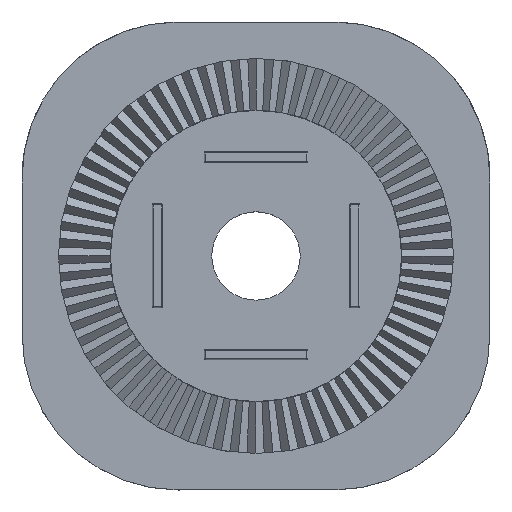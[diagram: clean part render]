
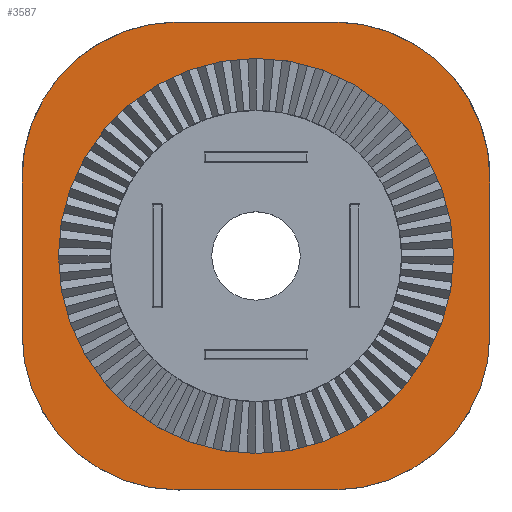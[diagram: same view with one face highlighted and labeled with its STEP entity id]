
A CAD part, top view. The second image highlights one B-rep face of the part: STEP entity #3587.
In plain terms, the highlighted planar face has unit normal (0, 0, 1).
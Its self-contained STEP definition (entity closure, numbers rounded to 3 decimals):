
#166 = AXIS2_PLACEMENT_3D ( 'NONE', #3101, #3102, #3103 ) ;
#169 = CIRCLE ( 'NONE', #166, 15. ) ;
#173 = AXIS2_PLACEMENT_3D ( 'NONE', #3092, #3093, #3094 ) ;
#180 = CIRCLE ( 'NONE', #173, 15. ) ;
#189 = VECTOR ( 'NONE', #3072, 1000. ) ;
#198 = AXIS2_PLACEMENT_3D ( 'NONE', #3021, #3022, #3023 ) ;
#202 = CIRCLE ( 'NONE', #198, 15. ) ;
#368 = VECTOR ( 'NONE', #5091, 1000. ) ;
#377 = AXIS2_PLACEMENT_3D ( 'NONE', #4906, #4907, #4908 ) ;
#379 = CIRCLE ( 'NONE', #377, 19. ) ;
#422 = AXIS2_PLACEMENT_3D ( 'NONE', #1386, #1387, #1388 ) ;
#428 = VECTOR ( 'NONE', #4779, 1000. ) ;
#468 = CIRCLE ( 'NONE', #422, 15. ) ;
#482 = VECTOR ( 'NONE', #1347, 1000. ) ;
#1123 = CARTESIAN_POINT ( 'NONE',  ( -900.756, 1965.144, 20. ) ) ;
#1127 = FACE_BOUND ( 'NONE', #4267, .T. ) ;
#1128 = FACE_OUTER_BOUND ( 'NONE', #4585, .T. ) ;
#1129 = PLANE ( 'NONE',  #2690 ) ;
#1131 = DIRECTION ( 'NONE',  ( 0., 0., 1. ) ) ;
#1132 = DIRECTION ( 'NONE',  ( 1., 0., 0. ) ) ;
#1345 = LINE ( 'NONE', #1346, #482 ) ;
#1346 = CARTESIAN_POINT ( 'NONE',  ( -915.756, 1950.144, 20. ) ) ;
#1347 = DIRECTION ( 'NONE',  ( 1., 0., 0. ) ) ;
#1386 = CARTESIAN_POINT ( 'NONE',  ( -915.756, 1965.144, 20. ) ) ;
#1387 = DIRECTION ( 'NONE',  ( 0., 0., 1. ) ) ;
#1388 = DIRECTION ( 'NONE',  ( 1., 0., 0. ) ) ;
#1460 = CARTESIAN_POINT ( 'NONE',  ( -930.756, 1965.144, 20. ) ) ;
#1461 = CARTESIAN_POINT ( 'NONE',  ( -930.756, 1980.144, 20. ) ) ;
#1464 = CARTESIAN_POINT ( 'NONE',  ( -915.756, 1995.144, 20. ) ) ;
#1467 = CARTESIAN_POINT ( 'NONE',  ( -885.756, 1980.144, 20. ) ) ;
#1511 = CARTESIAN_POINT ( 'NONE',  ( -889.256, 1972.644, 20. ) ) ;
#1605 = CARTESIAN_POINT ( 'NONE',  ( -885.756, 1965.144, 20. ) ) ;
#1623 = CARTESIAN_POINT ( 'NONE',  ( -915.756, 1950.144, 20. ) ) ;
#1642 = CARTESIAN_POINT ( 'NONE',  ( -927.256, 1972.644, 20. ) ) ;
#1683 = CARTESIAN_POINT ( 'NONE',  ( -900.756, 1995.144, 20. ) ) ;
#1757 = CARTESIAN_POINT ( 'NONE',  ( -900.756, 1950.144, 20. ) ) ;
#2507 = AXIS2_PLACEMENT_3D ( 'NONE', #6519, #6520, #6521 ) ;
#2658 = CIRCLE ( 'NONE', #2507, 19. ) ;
#2690 = AXIS2_PLACEMENT_3D ( 'NONE', #1123, #1131, #1132 ) ;
#3021 = CARTESIAN_POINT ( 'NONE',  ( -900.756, 1965.144, 20. ) ) ;
#3022 = DIRECTION ( 'NONE',  ( 0., 0., 1. ) ) ;
#3023 = DIRECTION ( 'NONE',  ( 1., 0., 0. ) ) ;
#3040 = LINE ( 'NONE', #3071, #189 ) ;
#3071 = CARTESIAN_POINT ( 'NONE',  ( -885.756, 1965.144, 20. ) ) ;
#3072 = DIRECTION ( 'NONE',  ( 0., 1., 0. ) ) ;
#3092 = CARTESIAN_POINT ( 'NONE',  ( -915.756, 1980.144, 20. ) ) ;
#3093 = DIRECTION ( 'NONE',  ( 0., 0., 1. ) ) ;
#3094 = DIRECTION ( 'NONE',  ( 1., 0., 0. ) ) ;
#3101 = CARTESIAN_POINT ( 'NONE',  ( -900.756, 1980.144, 20. ) ) ;
#3102 = DIRECTION ( 'NONE',  ( 0., 0., 1. ) ) ;
#3103 = DIRECTION ( 'NONE',  ( 1., 0., 0. ) ) ;
#3323 = EDGE_CURVE ( 'NONE', #7022, #7153, #2658, .T. ) ;
#3587 = ADVANCED_FACE ( 'NONE', ( #1127, #1128 ), #1129, .T. ) ;
#4267 = EDGE_LOOP ( 'NONE', ( #6931, #6933 ) ) ;
#4585 = EDGE_LOOP ( 'NONE', ( #6934, #6932, #6936, #6935, #6927, #6938, #6937, #6939 ) ) ;
#4777 = LINE ( 'NONE', #4778, #428 ) ;
#4778 = CARTESIAN_POINT ( 'NONE',  ( -930.756, 1980.144, 20. ) ) ;
#4779 = DIRECTION ( 'NONE',  ( 0., -1., 0. ) ) ;
#4906 = CARTESIAN_POINT ( 'NONE',  ( -908.256, 1972.644, 20. ) ) ;
#4907 = DIRECTION ( 'NONE',  ( 0., 0., 1. ) ) ;
#4908 = DIRECTION ( 'NONE',  ( 1., 0., 0. ) ) ;
#5089 = LINE ( 'NONE', #5090, #368 ) ;
#5090 = CARTESIAN_POINT ( 'NONE',  ( -900.756, 1995.144, 20. ) ) ;
#5091 = DIRECTION ( 'NONE',  ( -1., 0., 0. ) ) ;
#5815 = EDGE_CURVE ( 'NONE', #6972, #6971, #4777, .T. ) ;
#5849 = EDGE_CURVE ( 'NONE', #7153, #7022, #379, .T. ) ;
#5889 = EDGE_CURVE ( 'NONE', #7194, #6975, #5089, .T. ) ;
#5984 = EDGE_CURVE ( 'NONE', #7268, #7116, #202, .T. ) ;
#5990 = EDGE_CURVE ( 'NONE', #7116, #6978, #3040, .T. ) ;
#5996 = EDGE_CURVE ( 'NONE', #6975, #6972, #180, .T. ) ;
#5999 = EDGE_CURVE ( 'NONE', #6978, #7194, #169, .T. ) ;
#6235 = EDGE_CURVE ( 'NONE', #7134, #7268, #1345, .T. ) ;
#6239 = EDGE_CURVE ( 'NONE', #6971, #7134, #468, .T. ) ;
#6519 = CARTESIAN_POINT ( 'NONE',  ( -908.256, 1972.644, 20. ) ) ;
#6520 = DIRECTION ( 'NONE',  ( 0., 0., 1. ) ) ;
#6521 = DIRECTION ( 'NONE',  ( 1., 0., 0. ) ) ;
#6927 = ORIENTED_EDGE ( 'NONE', *, *, #5996, .T. ) ;
#6931 = ORIENTED_EDGE ( 'NONE', *, *, #3323, .F. ) ;
#6932 = ORIENTED_EDGE ( 'NONE', *, *, #5990, .T. ) ;
#6933 = ORIENTED_EDGE ( 'NONE', *, *, #5849, .F. ) ;
#6934 = ORIENTED_EDGE ( 'NONE', *, *, #5984, .T. ) ;
#6935 = ORIENTED_EDGE ( 'NONE', *, *, #5889, .T. ) ;
#6936 = ORIENTED_EDGE ( 'NONE', *, *, #5999, .T. ) ;
#6937 = ORIENTED_EDGE ( 'NONE', *, *, #6239, .T. ) ;
#6938 = ORIENTED_EDGE ( 'NONE', *, *, #5815, .T. ) ;
#6939 = ORIENTED_EDGE ( 'NONE', *, *, #6235, .T. ) ;
#6971 = VERTEX_POINT ( 'NONE', #1460 ) ;
#6972 = VERTEX_POINT ( 'NONE', #1461 ) ;
#6975 = VERTEX_POINT ( 'NONE', #1464 ) ;
#6978 = VERTEX_POINT ( 'NONE', #1467 ) ;
#7022 = VERTEX_POINT ( 'NONE', #1511 ) ;
#7116 = VERTEX_POINT ( 'NONE', #1605 ) ;
#7134 = VERTEX_POINT ( 'NONE', #1623 ) ;
#7153 = VERTEX_POINT ( 'NONE', #1642 ) ;
#7194 = VERTEX_POINT ( 'NONE', #1683 ) ;
#7268 = VERTEX_POINT ( 'NONE', #1757 ) ;
